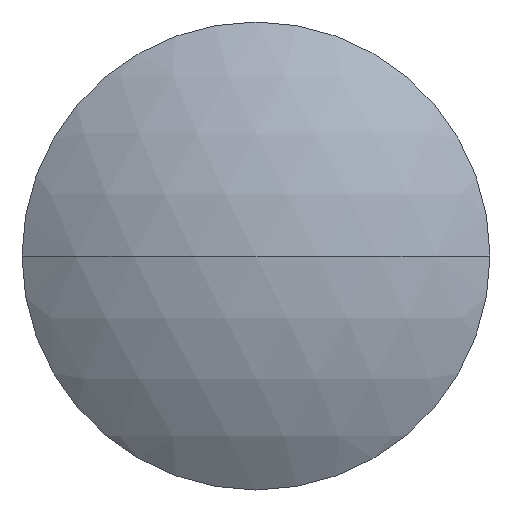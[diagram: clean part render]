
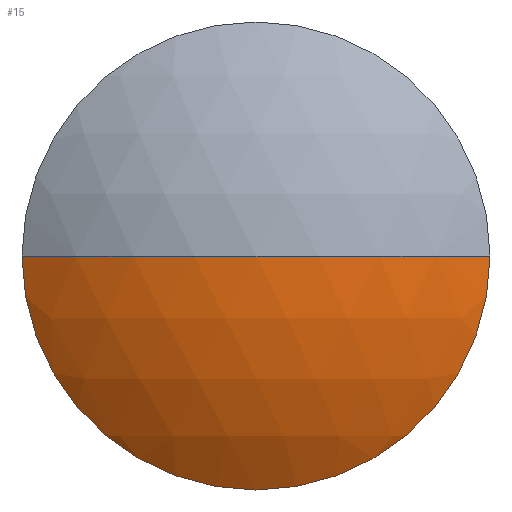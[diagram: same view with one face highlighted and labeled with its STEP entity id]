
A CAD part, left-side view. The second image highlights one B-rep face of the part: STEP entity #15.
In plain terms, the highlighted spherical face has radius 33.083 mm.
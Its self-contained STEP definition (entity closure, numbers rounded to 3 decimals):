
#2 = DIRECTION ( 'NONE',  ( 0., 1., 0. ) ) ;
#3 = DIRECTION ( 'NONE',  ( 0., 0., -1. ) ) ;
#15 = ADVANCED_FACE ( 'NONE', ( #258 ), #315, .T. ) ;
#21 = DIRECTION ( 'NONE',  ( 0., 0., 1. ) ) ;
#41 = ORIENTED_EDGE ( 'NONE', *, *, #319, .T. ) ;
#50 = CARTESIAN_POINT ( 'NONE',  ( -2., -19., 0. ) ) ;
#59 = AXIS2_PLACEMENT_3D ( 'NONE', #204, #314, #288 ) ;
#71 = AXIS2_PLACEMENT_3D ( 'NONE', #296, #111, #84 ) ;
#84 = DIRECTION ( 'NONE',  ( 0., 0., 1. ) ) ;
#94 = VERTEX_POINT ( 'NONE', #348 ) ;
#100 = DIRECTION ( 'NONE',  ( 1., 0., 0. ) ) ;
#104 = DIRECTION ( 'NONE',  ( 0., 0., 1. ) ) ;
#111 = DIRECTION ( 'NONE',  ( -1., 0., 0. ) ) ;
#133 = CARTESIAN_POINT ( 'NONE',  ( -2., 0., -19. ) ) ;
#134 = AXIS2_PLACEMENT_3D ( 'NONE', #158, #3, #2 ) ;
#141 = VERTEX_POINT ( 'NONE', #133 ) ;
#143 = CIRCLE ( 'NONE', #71, 19. ) ;
#152 = ORIENTED_EDGE ( 'NONE', *, *, #157, .F. ) ;
#156 = CARTESIAN_POINT ( 'NONE',  ( -2., 0., 0. ) ) ;
#157 = EDGE_CURVE ( 'NONE', #217, #94, #299, .T. ) ;
#158 = CARTESIAN_POINT ( 'NONE',  ( 25.083, 0., 0. ) ) ;
#166 = CIRCLE ( 'NONE', #134, 33.083 ) ;
#167 = VERTEX_POINT ( 'NONE', #50 ) ;
#175 = ORIENTED_EDGE ( 'NONE', *, *, #197, .T. ) ;
#177 = EDGE_CURVE ( 'NONE', #141, #167, #214, .T. ) ;
#186 = CARTESIAN_POINT ( 'NONE',  ( -2., 19., 0. ) ) ;
#187 = AXIS2_PLACEMENT_3D ( 'NONE', #206, #21, #100 ) ;
#197 = EDGE_CURVE ( 'NONE', #167, #94, #166, .T. ) ;
#201 = ORIENTED_EDGE ( 'NONE', *, *, #177, .T. ) ;
#204 = CARTESIAN_POINT ( 'NONE',  ( 25.083, 0., 0. ) ) ;
#206 = CARTESIAN_POINT ( 'NONE',  ( 25.083, 0., 0. ) ) ;
#214 = CIRCLE ( 'NONE', #335, 19. ) ;
#217 = VERTEX_POINT ( 'NONE', #186 ) ;
#219 = EDGE_LOOP ( 'NONE', ( #41, #201, #175, #152 ) ) ;
#258 = FACE_OUTER_BOUND ( 'NONE', #219, .T. ) ;
#288 = DIRECTION ( 'NONE',  ( 0., 1., 0. ) ) ;
#296 = CARTESIAN_POINT ( 'NONE',  ( -2., 0., 0. ) ) ;
#299 = CIRCLE ( 'NONE', #187, 33.083 ) ;
#314 = DIRECTION ( 'NONE',  ( 0., 0., -1. ) ) ;
#315 = SPHERICAL_SURFACE ( 'NONE', #59, 33.083 ) ;
#319 = EDGE_CURVE ( 'NONE', #217, #141, #143, .T. ) ;
#335 = AXIS2_PLACEMENT_3D ( 'NONE', #156, #346, #104 ) ;
#346 = DIRECTION ( 'NONE',  ( -1., 0., 0. ) ) ;
#348 = CARTESIAN_POINT ( 'NONE',  ( -8., 0., 0. ) ) ;
